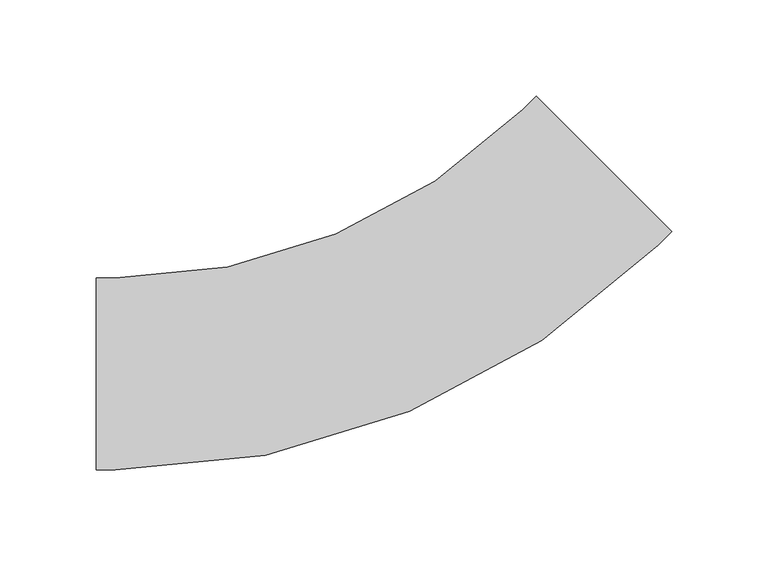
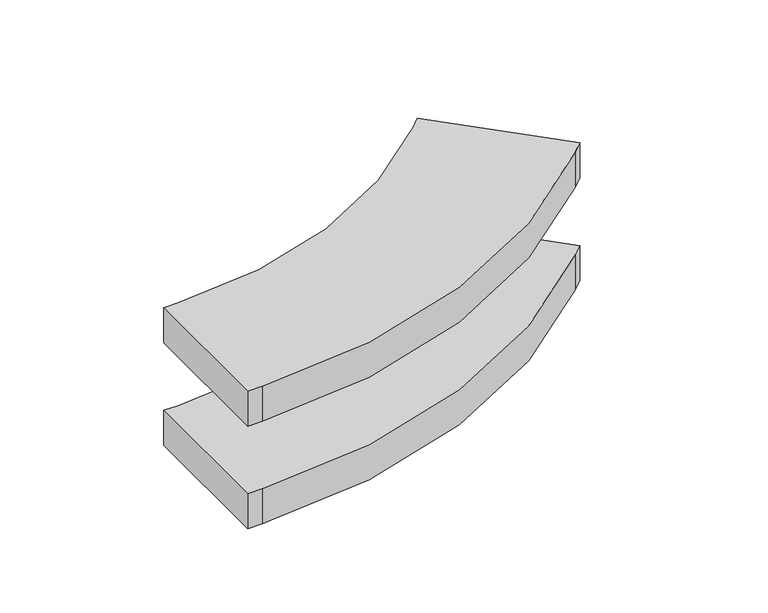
"""IFC4 building model written with IfcOpenShell, lengths in millimetres: cable carrier fitting geometry, ADSK_Поворот вертикальный наружный_Лестничный лоток : Радиус 300 мм."""

from ifc_helpers import new_model, si_unit, point, frame, frame_2d, origin, place, context, project, spatial, polyline, circle_curve, trimmed, segment, composite_curve, outline, extrude, source, transform, mapped, element, save


def cable_carrier_fitting_f6488f59(model_context):
    return source(origin(), model_context, "Body", "SweptSolid", [
        extrude(outline(polyline([(-18.4364471, 77.6962198), (-8.7162879, 54.2296797), (-32.182828, 44.5095205), (-41.9029872, 67.9760607), (-18.4364471, 77.6962198)])), frame((0.0, 0.0, -24.6), z_axis=(0.0, 0.0, 1.0), x_axis=(1.0, 0.0, 0.0)), (0.0, 0.0, 1.0), 49.2),
        extrude(outline(composite_curve([segment(polyline([(-154.9747468, -50.0), (-154.9747468, 50.0), (-144.9747468, 50.0)]), True, "CONTINUOUS"), segment(trimmed(circle_curve(frame_2d((-144.9747468, 350.0)), 300.0), [point((-144.9747468, 50.0))], [point((67.1572875, 137.8679656))], True, "CARTESIAN"), True, "CONTINUOUS"), segment(polyline([(67.1572875, 137.8679656), (74.2283553, 144.9390335), (144.9390335, 74.2283553), (137.8679656, 67.1572875)]), True, "CONTINUOUS"), segment(trimmed(circle_curve(frame_2d((-144.9747468, 350.0)), 400.0), [point((137.8679656, 67.1572875))], [point((-144.9747468, -50.0))], False, "CARTESIAN"), True, "CONTINUOUS"), segment(polyline([(-144.9747468, -50.0), (-154.9747468, -50.0)]), True, "CONTINUOUS")], self_intersect=False)), frame((0.0, 0.0, 24.6), z_axis=(0.0, 0.0, 1.0), x_axis=(1.0, 0.0, 0.0)), (0.0, 0.0, 1.0), 25.4),
        extrude(outline(composite_curve([segment(polyline([(-154.9747468, -50.0), (-154.9747468, 50.0), (-144.9747468, 50.0)]), True, "CONTINUOUS"), segment(trimmed(circle_curve(frame_2d((-144.9747468, 350.0)), 300.0), [point((-144.9747468, 50.0))], [point((67.1572875, 137.8679656))], True, "CARTESIAN"), True, "CONTINUOUS"), segment(polyline([(67.1572875, 137.8679656), (74.2283553, 144.9390335), (144.9390335, 74.2283553), (137.8679656, 67.1572875)]), True, "CONTINUOUS"), segment(trimmed(circle_curve(frame_2d((-144.9747468, 350.0)), 400.0), [point((137.8679656, 67.1572875))], [point((-144.9747468, -50.0))], False, "CARTESIAN"), True, "CONTINUOUS"), segment(polyline([(-144.9747468, -50.0), (-154.9747468, -50.0)]), True, "CONTINUOUS")], self_intersect=False)), frame((0.0, 0.0, -50.0), z_axis=(0.0, 0.0, 1.0), x_axis=(1.0, 0.0, 0.0)), (0.0, 0.0, 1.0), 25.4),
    ])


if __name__ == "__main__":
    model = new_model("IFC4")
    model_context = context("Model", 3, world=origin())
    ifc_project = project(units=[si_unit("LENGTHUNIT", "METRE", prefix="MILLI")], contexts=[model_context])
    site = spatial("IfcSite", under=ifc_project)
    building = spatial("IfcBuilding", under=site)
    placement = place(None, origin())
    cable_carrier_fitting_shape = cable_carrier_fitting_f6488f59(model_context)
    element("IfcCableCarrierFitting", 1, ObjectType="ADSK_Поворот вертикальный наружный_Лестничный лоток : Радиус 300 мм", at=placement, inside=building, context=model_context, shape_type="MappedRepresentation", body=[
        mapped(cable_carrier_fitting_shape, transform((0.0, 0.0, 0.0), x_axis=(1.0, 0.0, 0.0), y_axis=(0.0, 1.0, 0.0), z_axis=(0.0, 0.0, 1.0))),
    ])
    save(model, "model.ifc")
